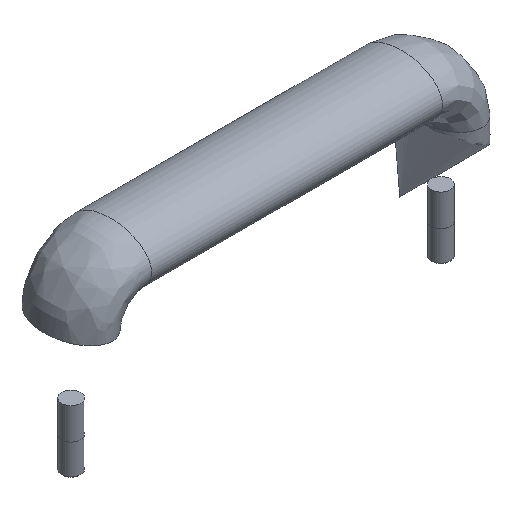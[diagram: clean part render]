
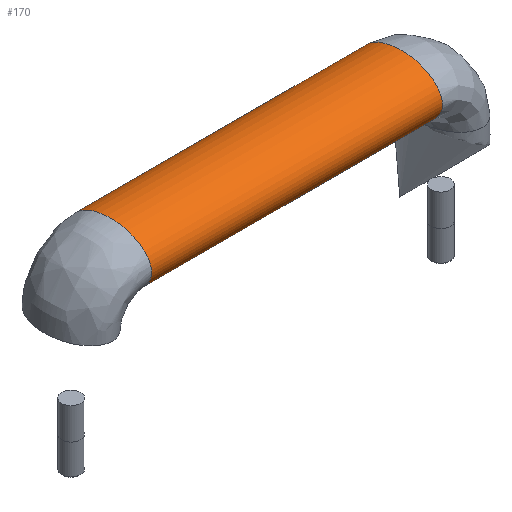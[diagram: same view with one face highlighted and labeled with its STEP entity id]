
A CAD part, isometric view. The second image highlights one B-rep face of the part: STEP entity #170.
In plain terms, the highlighted free-form (B-spline) face has degree [2, 1] with [9, 2] control points.
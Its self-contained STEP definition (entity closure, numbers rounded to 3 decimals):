
#101=CARTESIAN_POINT('',(12.5,13.,44.5));
#102=VERTEX_POINT('',#101);
#112=CARTESIAN_POINT('',(12.5,13.,44.5));
#113=CARTESIAN_POINT('',(12.5,13.,53.));
#114=CARTESIAN_POINT('',(12.5,0.,53.));
#115=CARTESIAN_POINT('',(12.5,-13.,53.));
#116=CARTESIAN_POINT('',(12.5,-13.,44.5));
#117=CARTESIAN_POINT('',(12.5,-13.,36.));
#118=CARTESIAN_POINT('',(12.5,0.,36.));
#119=CARTESIAN_POINT('',(12.5,13.,36.));
#120=CARTESIAN_POINT('',(12.5,13.,44.5));
#121=(BOUNDED_CURVE()B_SPLINE_CURVE(2,(#112,#113,#114,#115,#116,#117,#118,#119,#120),.UNSPECIFIED.,.T.,.U.)B_SPLINE_CURVE_WITH_KNOTS((3,2,2,2,3),(0.,0.25,0.5,0.75,1.),.UNSPECIFIED.)CURVE()GEOMETRIC_REPRESENTATION_ITEM()RATIONAL_B_SPLINE_CURVE((1.,0.707,1.,0.707,1.,0.707,1.,0.707,1.))REPRESENTATION_ITEM(''));
#122=EDGE_CURVE('',#102,#102,#121,.T.);
#127=CARTESIAN_POINT('',(12.5,13.,44.5));
#128=CARTESIAN_POINT('',(104.5,13.,44.5));
#129=CARTESIAN_POINT('',(12.5,13.,53.));
#130=CARTESIAN_POINT('',(104.5,13.,53.));
#131=CARTESIAN_POINT('',(12.5,0.,53.));
#132=CARTESIAN_POINT('',(104.5,0.,53.));
#133=CARTESIAN_POINT('',(12.5,-13.,53.));
#134=CARTESIAN_POINT('',(104.5,-13.,53.));
#135=CARTESIAN_POINT('',(12.5,-13.,44.5));
#136=CARTESIAN_POINT('',(104.5,-13.,44.5));
#137=CARTESIAN_POINT('',(12.5,-13.,36.));
#138=CARTESIAN_POINT('',(104.5,-13.,36.));
#139=CARTESIAN_POINT('',(12.5,0.,36.));
#140=CARTESIAN_POINT('',(104.5,0.,36.));
#141=CARTESIAN_POINT('',(12.5,13.,36.));
#142=CARTESIAN_POINT('',(104.5,13.,36.));
#143=CARTESIAN_POINT('',(12.5,13.,44.5));
#144=CARTESIAN_POINT('',(104.5,13.,44.5));
#145=(BOUNDED_SURFACE()B_SPLINE_SURFACE(2,1,((#127,#128),(#129,#130),(#131,#132),(#133,#134),(#135,#136),(#137,#138),(#139,#140),(#141,#142),(#143,#144)),.SURF_OF_LINEAR_EXTRUSION.,.T.,.F.,.U.)B_SPLINE_SURFACE_WITH_KNOTS((3,2,2,2,3),(2,2),(0.,0.25,0.5,0.75,1.),(0.,1.),.UNSPECIFIED.)GEOMETRIC_REPRESENTATION_ITEM()RATIONAL_B_SPLINE_SURFACE(((1.,1.),(0.707,0.707),(1.,1.),(0.707,0.707),(1.,1.),(0.707,0.707),(1.,1.),(0.707,0.707),(1.,1.)))REPRESENTATION_ITEM('')SURFACE());
#146=CARTESIAN_POINT('',(104.5,13.,44.5));
#147=VERTEX_POINT('',#146);
#148=CARTESIAN_POINT('',(12.5,13.,44.5));
#149=DIRECTION('',(1.,0.,0.));
#150=VECTOR('',#149,92.);
#151=LINE('',#148,#150);
#152=EDGE_CURVE('',#102,#147,#151,.T.);
#153=ORIENTED_EDGE('E7',*,*,#152,.F.);
#154=ORIENTED_EDGE('E7',*,*,#122,.T.);
#155=ORIENTED_EDGE('E7',*,*,#152,.T.);
#156=CARTESIAN_POINT('',(104.5,13.,44.5));
#157=CARTESIAN_POINT('',(104.5,13.,53.));
#158=CARTESIAN_POINT('',(104.5,0.,53.));
#159=CARTESIAN_POINT('',(104.5,-13.,53.));
#160=CARTESIAN_POINT('',(104.5,-13.,44.5));
#161=CARTESIAN_POINT('',(104.5,-13.,36.));
#162=CARTESIAN_POINT('',(104.5,0.,36.));
#163=CARTESIAN_POINT('',(104.5,13.,36.));
#164=CARTESIAN_POINT('',(104.5,13.,44.5));
#165=(BOUNDED_CURVE()B_SPLINE_CURVE(2,(#156,#157,#158,#159,#160,#161,#162,#163,#164),.UNSPECIFIED.,.T.,.U.)B_SPLINE_CURVE_WITH_KNOTS((3,2,2,2,3),(0.,0.25,0.5,0.75,1.),.UNSPECIFIED.)CURVE()GEOMETRIC_REPRESENTATION_ITEM()RATIONAL_B_SPLINE_CURVE((1.,0.707,1.,0.707,1.,0.707,1.,0.707,1.))REPRESENTATION_ITEM(''));
#166=EDGE_CURVE('',#147,#147,#165,.T.);
#167=ORIENTED_EDGE('E8',*,*,#166,.F.);
#168=EDGE_LOOP('',(#153,#154,#155,#167));
#169=FACE_OUTER_BOUND('',#168,.T.);
#170=ADVANCED_FACE('F5',(#169),#145,.T.);
